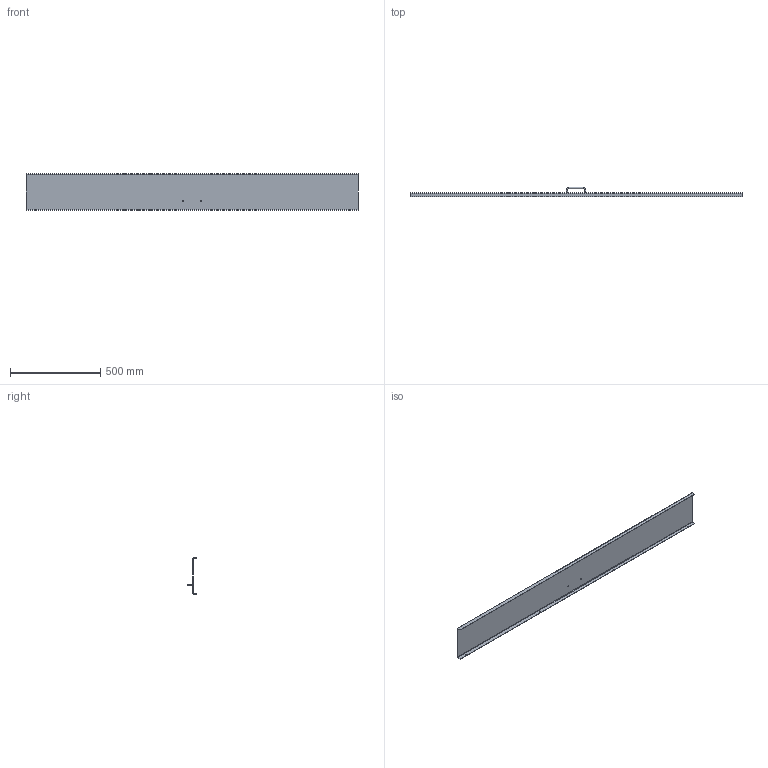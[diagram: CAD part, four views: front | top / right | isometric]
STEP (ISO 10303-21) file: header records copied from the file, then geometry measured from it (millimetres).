
FILE_DESCRIPTION (( 'STEP AP203' ), '1' );
FILE_NAME ('99880.STEP', '2013-04-24T04:48:02', ( '' ), ( '' ), 'SwSTEP 2.0', 'SolidWorks 2010', '' );
FILE_SCHEMA (( 'CONFIG_CONTROL_DESIGN' ));
Length unit declared in the file: inch
Products named in the file (3): 99880; 21458193; 45124001
Assembly tree (2 placements, depth 2):
  99880
    45124001
    21458193
Bounding box: 1837.69 x 54.1 x 200.15 mm (x, y, z)
Volume: 808652.9 mm3; surface area: 888808.3 mm2
Topology: 2 solids, 2 shells, 58 faces, 134 edges, 78 vertices
Faces by surface type: cylinder 26, plane 20, cone 8, torus 4
Entity records: 1945 total; most frequent: DIRECTION 320, CARTESIAN_POINT 271, ORIENTED_EDGE 260, EDGE_CURVE 130, AXIS2_PLACEMENT_3D 127, VERTEX_POINT 78, EDGE_LOOP 72, LINE 66
